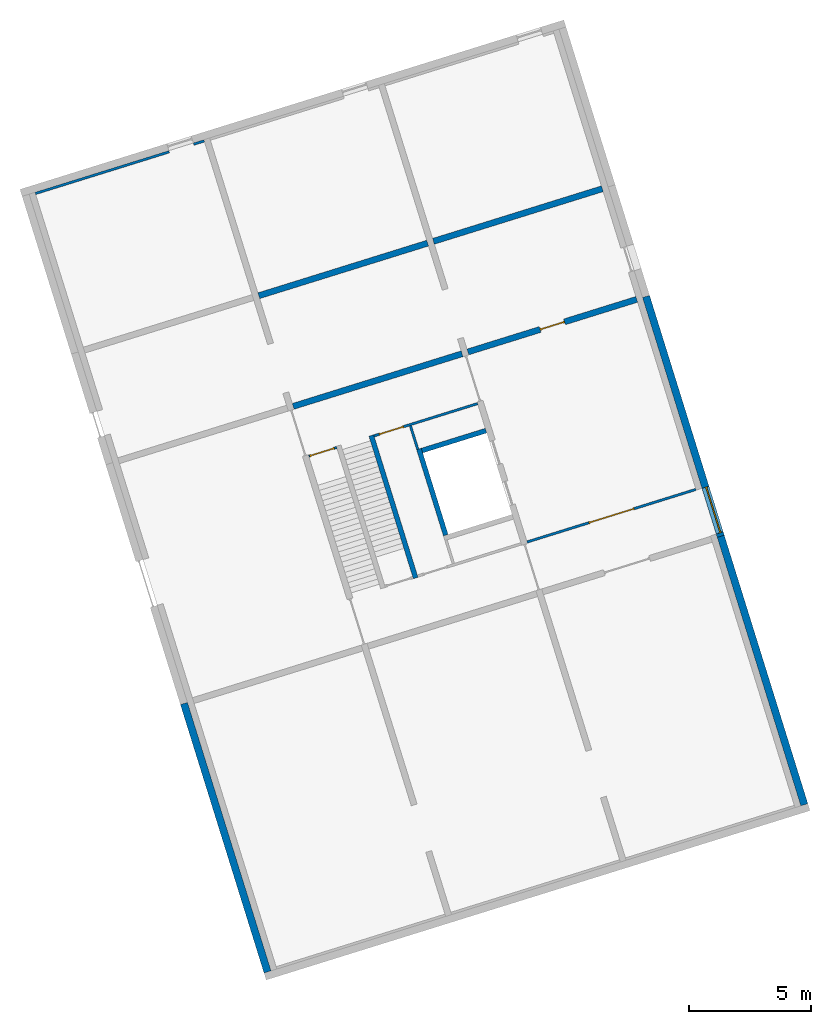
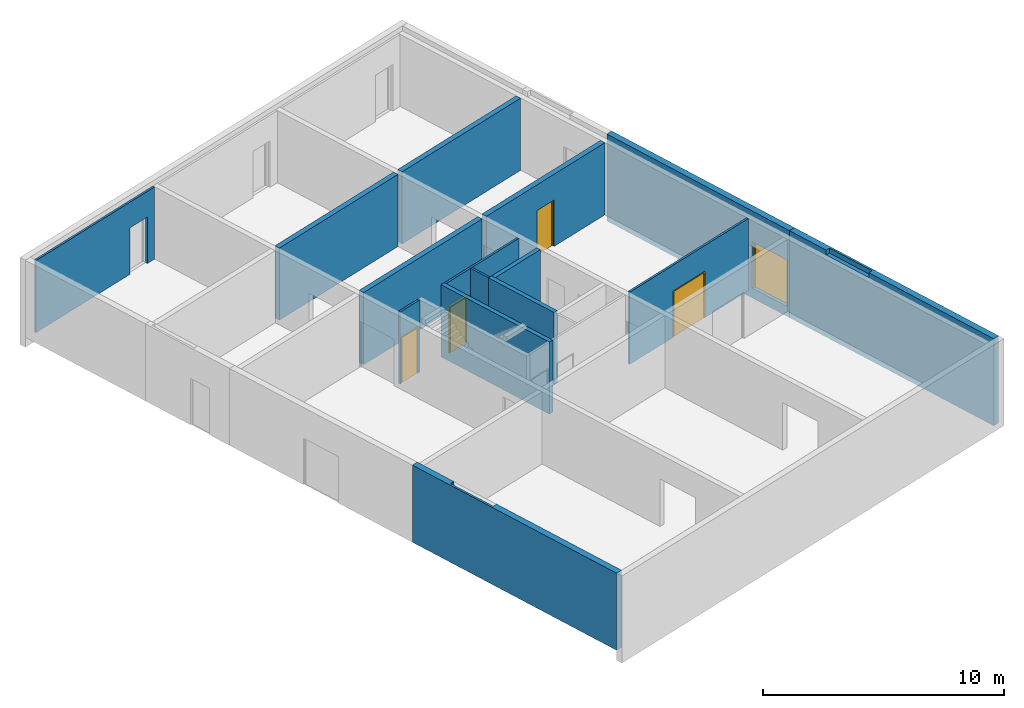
# One storey, part 2 of 5: 15 walls, 5 doors, 10 openings.
"""IFC4 building model written with IfcOpenShell, lengths in metres."""

from ifc_helpers import new_model, entity, si_unit, converted_unit, direction, frame, origin, place, context, subcontext, project, spatial, indexed_curve, outline, extrude, polygons, source, transform, mapped, material, constituent, constituent_set, type_object, type_shapes, element, fill, save


model = new_model("IFC4")

# Units and contexts
model_context = context("Model", 3, precision=1e-05, world=origin(), true_north=direction((6.12323399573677e-17, 1.0)))
body_context = subcontext(model_context, "Body", "Model", "MODEL_VIEW")
ifc_project = project(units=[si_unit("LENGTHUNIT", "METRE"), si_unit("AREAUNIT", "SQUARE_METRE"), si_unit("VOLUMEUNIT", "CUBIC_METRE"), converted_unit("PLANEANGLEUNIT", "DEGREE", entity("IfcPlaneAngleMeasure", 0.0174532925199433), si_unit("PLANEANGLEUNIT", "RADIAN"), dimensions=[0, 0, 0, 0, 0, 0, 0])], contexts=[model_context])

# Site, building, storey
site_placement = place(None, frame((13.1347999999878, 11.9886000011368, 0.0), z_axis=(0.0, 0.0, 1.0), x_axis=(0.954770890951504, 0.297342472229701, 0.0)))
site = spatial("IfcSite", under=ifc_project, at=site_placement, Name="Schiehaven", CompositionType="ELEMENT")
building_placement = place(site_placement, origin())
building = spatial("IfcBuilding", under=site, at=building_placement, Name="VORM huis", CompositionType="ELEMENT")
storey_placement = place(building_placement, origin())
storey = spatial("IfcBuildingStorey", under=building, at=storey_placement, Name="00 begane grond", CompositionType="ELEMENT", Elevation=0.0)

# Wall
ifc_material_1 = material(Name="beton_gewapend_ihw", Category="Miscellaneous")
wall_type_1 = type_object("IfcWallType", Name="Basic Wall:28_WA_skelet_wand 250mm_gen", PredefinedType="STANDARD")
wall_1_placement = place(storey_placement, frame((72.3750000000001, 22.1999999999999, 0.0), z_axis=(0.0, 0.0, 1.0), x_axis=(-1.0, 0.0, 0.0)))
element("IfcWall", 1, at=wall_1_placement, inside=storey, type_object=wall_type_1, material=ifc_material_1, Name="Constructieve wand", ObjectType="Wand", PredefinedType="NOTDEFINED", context=body_context, shape_type="SweptSolid", body=[
    extrude(outline(indexed_curve([(7.25000000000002, 0.125000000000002), (2.09007477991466e-15, 0.125000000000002), (-2.09007477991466e-15, -0.125000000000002), (7.25000000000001, -0.125000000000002), (7.25000000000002, 0.125000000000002)], self_intersect=False)), origin(), (0.0, 0.0, 1.0), 3.65),
])

# Wall, opening
ifc_material_2 = material(Name="ntb_ntb_ntb", Category="Miscellaneous")
wall_type_2 = type_object("IfcWallType", Name="Basic Wall:21_WA_gevel_binnenspouwwand 100mm_gen", PredefinedType="STANDARD")
wall_2_placement = place(storey_placement, frame((64.8749999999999, 33.6749999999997, 0.0), z_axis=(0.0, 0.0, 1.0), x_axis=(-1.0, 0.0, 0.0)))
wall_2 = element("IfcWall", 2, at=wall_2_placement, inside=storey, type_object=wall_type_2, material=ifc_material_2, Name="Binnenspouwblad", ObjectType="Wand", PredefinedType="NOTDEFINED", context=body_context, shape_type="Tessellation", body=[
    polygons([(1.50000000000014, -0.0499999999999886, 2.34999999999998), (1.50000000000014, -0.0499999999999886, 0.0), (7.24999999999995, -0.0499999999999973, 0.0), (7.24999999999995, -0.0499999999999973, 3.65), (1.14799152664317e-16, -0.0499999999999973, 3.65), (1.14799152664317e-16, -0.0499999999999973, 0.0), (0.45000000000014, -0.0499999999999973, 0.0), (0.45000000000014, -0.0499999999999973, 2.34999999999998), (7.24999999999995, 0.0500000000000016, 0.0), (1.50000000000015, 0.050000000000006, 0.0), (1.50000000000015, 0.050000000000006, 2.34999999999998), (0.450000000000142, 0.050000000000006, 2.34999999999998), (0.450000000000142, 0.050000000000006, 0.0), (1.73273906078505e-15, 0.0500000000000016, 0.0), (1.73273906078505e-15, 0.0500000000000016, 3.65), (7.24999999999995, 0.0500000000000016, 3.65)], [[[1, 2, 3, 4, 5, 6, 7, 8]], [[9, 10, 11, 12, 13, 14, 15, 16]], [[7, 6, 14, 13]], [[4, 3, 9, 16]], [[5, 4, 16, 15]], [[6, 5, 15, 14]], [[13, 12, 8, 7]], [[11, 10, 2, 1]], [[12, 11, 1, 8]], [[3, 2, 10, 9]]], closed=True),
])
opening_1_placement = place(wall_2_placement, origin())
element("IfcOpeningElement", 3, at=opening_1_placement, cuts=wall_2, Name="Woningtoegangsdeur", PredefinedType="OPENING", context=body_context, shape_type="SweptSolid", body=[
    extrude(outline(indexed_curve([(-0.525000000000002, -1.17499999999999), (0.525000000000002, -1.17499999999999), (0.525000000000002, 1.17499999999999), (-0.525000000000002, 1.17499999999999), (-0.525000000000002, -1.17499999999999)], self_intersect=False)), frame((0.975000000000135, -1.57399999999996, 1.17499999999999), z_axis=(0.0, 1.0, 0.0), x_axis=(1.0, 0.0, 0.0)), (0.0, 0.0, 1.0), 3.048),
])

# Walls
wall_type_3 = type_object("IfcWallType", Name="Basic Wall: 300mm_gen", PredefinedType="STANDARD")
wall_3_placement = place(storey_placement, frame((80.2750000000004, 0.375000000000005, -0.5), z_axis=(0.0, 0.0, 1.0), x_axis=(0.0, 1.0, 0.0)))
element("IfcWall", 4, at=wall_3_placement, inside=storey, type_object=wall_type_3, material=ifc_material_2, Name="Gevelwand", ObjectType="Wand", PredefinedType="NOTDEFINED", context=body_context, shape_type="Tessellation", body=[
    polygons([(3.88578058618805e-16, -0.149999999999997, 0.0), (11.525, -0.149999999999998, 0.0), (11.525, -0.149999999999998, 4.4), (4.44089209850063e-16, -0.149999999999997, 4.4), (11.525, 0.15, 0.0), (6.10622663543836e-16, 0.15, 0.0), (6.10622663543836e-16, 0.15, 0.5), (6.10622663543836e-16, 0.15, 4.15), (2.77555756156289e-16, 0.15, 4.4), (7.05000000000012, 0.149999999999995, 4.4), (7.05000000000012, 0.149999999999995, 4.15), (9.45000000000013, 0.150000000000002, 4.15), (9.45000000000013, 0.150000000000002, 4.4), (11.525, 0.15, 4.4), (9.45000000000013, -0.0500000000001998, 4.4), (7.05000000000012, -0.05000000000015, 4.4), (7.05000000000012, -0.05000000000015, 4.15), (9.45000000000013, -0.0500000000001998, 4.15)], [[[1, 2, 3, 4]], [[5, 6, 7, 8, 9, 10, 11, 12, 13, 14]], [[2, 1, 6, 5]], [[3, 2, 5, 14]], [[4, 3, 14, 13, 15, 16, 10, 9]], [[17, 18, 12, 11]], [[16, 17, 11, 10]], [[18, 17, 16, 15]], [[18, 15, 13, 12]], [[1, 4, 9, 8, 7, 6]]], closed=True),
])
wall_4_placement = place(storey_placement, frame((57.2250000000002, 11.8999999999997, 0.0), z_axis=(0.0, 0.0, 1.0), x_axis=(0.0, -1.0, 0.0)))
element("IfcWall", 5, at=wall_4_placement, inside=storey, type_object=wall_type_3, material=ifc_material_2, Name="Gevelwand", ObjectType="Wand", PredefinedType="NOTDEFINED", context=body_context, shape_type="Tessellation", body=[
    polygons([(0.0, -0.15, 0.0), (11.525, -0.149999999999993, 0.0), (11.525, -0.149999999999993, 3.9), (0.0, -0.15, 3.9), (11.525, 0.150000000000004, 0.0), (1.77635683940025e-15, 0.150000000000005, 0.0), (1.77635683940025e-15, 0.150000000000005, 3.9), (2.07499999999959, 0.150000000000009, 3.9), (2.07499999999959, 0.149999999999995, 3.65), (4.47499999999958, 0.149999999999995, 3.65), (4.47499999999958, 0.149999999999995, 3.9), (11.525, 0.150000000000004, 3.9), (11.525, 0.149999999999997, 3.65), (4.47499999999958, -0.0499999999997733, 3.9), (2.07499999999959, -0.0499999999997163, 3.9), (2.07499999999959, -0.0499999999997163, 3.65), (4.47499999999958, -0.0499999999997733, 3.65)], [[[1, 2, 3, 4]], [[5, 6, 7, 8, 9, 10, 11, 12, 13]], [[2, 1, 6, 5]], [[4, 3, 12, 11, 14, 15, 8, 7]], [[1, 4, 7, 6]], [[3, 2, 5, 13, 12]], [[16, 17, 10, 9]], [[17, 14, 11, 10]], [[17, 16, 15, 14]], [[15, 16, 9, 8]]], closed=True),
])

# Wall, openings, door
wall_5_placement = place(storey_placement, frame((80.2750000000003, 11.9, -0.5), z_axis=(0.0, 0.0, 1.0), x_axis=(0.0, 1.0, 0.0)))
wall_5 = element("IfcWall", 6, at=wall_5_placement, inside=storey, type_object=wall_type_3, material=ifc_material_2, Name="Gevelwand", ObjectType="Wand", PredefinedType="NOTDEFINED", context=body_context, shape_type="Tessellation", body=[
    polygons([(0.0, -0.150000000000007, 0.0), (10.3, -0.150000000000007, 0.0), (10.3, -0.150000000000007, 4.4), (0.0, -0.150000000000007, 4.4), (2.1075, -0.150000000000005, 2.84999999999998), (2.1075, -0.150000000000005, 0.5), (0.142499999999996, -0.15000000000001, 0.5), (0.142499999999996, -0.15000000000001, 2.84999999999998), (0.0, 0.149999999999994, 0.0), (0.0, 0.149999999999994, 4.4), (10.3, 0.149999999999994, 4.4), (10.3, 0.149999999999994, 0.0), (2.1075, 0.149999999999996, 2.84999999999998), (0.142499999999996, 0.149999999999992, 2.84999999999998), (0.142499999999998, 0.149999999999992, 0.5), (2.1075, 0.149999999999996, 0.5)], [[[1, 2, 3, 4], [5, 6, 7, 8]], [[9, 10, 11, 12], [13, 14, 15, 16]], [[2, 1, 9, 12]], [[3, 2, 12, 11]], [[4, 3, 11, 10]], [[1, 4, 10, 9]], [[5, 8, 14, 13]], [[8, 7, 15, 14]], [[7, 6, 16, 15]], [[6, 5, 13, 16]]], closed=True),
])
opening_2_placement = place(wall_5_placement, origin())
element("IfcOpeningElement", 7, at=opening_2_placement, cuts=wall_5, Name="Vluchtdeur", PredefinedType="OPENING", context=body_context, shape_type="SweptSolid", body=[
    extrude(outline(indexed_curve([(-0.525000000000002, -1.17499999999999), (0.525000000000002, -1.17499999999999), (0.524999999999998, 1.17499999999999), (-0.525000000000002, 1.17499999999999), (-0.525000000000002, -1.17499999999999)], self_intersect=False)), frame((11.9749999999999, -1.12399999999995, 1.67499999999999), z_axis=(0.0, 1.0, 0.0), x_axis=(1.0, 0.0, 0.0)), (0.0, 0.0, 1.0), 3.048),
])
opening_3_placement = place(wall_5_placement, frame((2.1075, 0.150000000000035, 0.5)))
opening_3 = element("IfcOpeningElement", 8, at=opening_3_placement, cuts=wall_5, Name="Vluchtdeur", PredefinedType="OPENING", context=body_context, shape_type="SweptSolid", body=[
    extrude(outline(indexed_curve([(2.34999999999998, 0.0), (2.34999999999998, 1.965), (0.0, 1.965), (0.0, 0.0), (2.34999999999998, 0.0)], self_intersect=False)), frame((0.0, 0.0, 0.0), z_axis=(0.0, -1.0, 0.0), x_axis=(0.0, 0.0, 1.0)), (0.0, 0.0, 1.0), 0.3),
])
opening_4_placement = place(wall_5_placement, frame((-11.9, 80.2750000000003, 0.5), z_axis=(0.0, 0.0, 1.0), x_axis=(0.0, -1.0, 0.0)))
element("IfcOpeningElement", 9, at=opening_4_placement, cuts=wall_5, Name="Vluchtdeur", PredefinedType="OPENING", context=body_context, shape_type="SweptSolid", body=[
    extrude(outline(indexed_curve([(-1.17499999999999, -0.9825), (1.17499999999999, -0.982500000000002), (1.17499999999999, 0.982500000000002), (-1.17499999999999, 0.982500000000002), (-1.17499999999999, -0.9825)], self_intersect=False)), frame((81.6490000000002, 13.025, 1.17499999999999), z_axis=(-1.0, 0.0, 0.0), x_axis=(0.0, 0.0, -1.0)), (0.0, 0.0, 1.0), 3.048),
])
ifc_material_3 = material(Name="PD_a_buitenwandopeningen", Category="Miscellaneous")
ifc_constituent_1 = constituent(ifc_material_3, Name="PD_a_buitenwandopeningen", Category="Miscellaneous")
ifc_material_4 = material(Name="metaal_aluminium_ntb", Category="Miscellaneous")
ifc_constituent_2 = constituent(ifc_material_4, Name="metaal_aluminium_ntb", Category="Miscellaneous")
ifc_constituent_set_1 = constituent_set(constituents=[ifc_constituent_1, ifc_constituent_2])
ifc_constituent_3 = constituent(ifc_material_3, Name="PD_a_buitenwandopeningen", Category="Miscellaneous")
ifc_constituent_4 = constituent(ifc_material_4, Name="Panel", Category="Miscellaneous")
ifc_constituent_set_2 = constituent_set(constituents=[ifc_constituent_3, ifc_constituent_4])
door_type_1 = type_object("IfcDoorType", Name="31_DO_buitendeur dubbel:buitendeur zelfsluitend 30min", OperationType="NOTDEFINED", PredefinedType="DOOR", material=ifc_constituent_set_2)
shared_shape_1 = source(origin(), body_context, "Body", "SweptSolid", [
    extrude(outline(indexed_curve([(0.932499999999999, -1.16249999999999), (0.982500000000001, -1.16249999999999), (0.982500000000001, 1.18749999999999), (-0.982500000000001, 1.18749999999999), (-0.982500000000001, -1.16249999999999), (-0.932499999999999, -1.16249999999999), (-0.9325, 1.13749999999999), (0.932499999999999, 1.13749999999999), (0.932499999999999, -1.16249999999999)], self_intersect=False)), frame((0.982500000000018, 0.230000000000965, 1.16249999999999), z_axis=(0.0, -1.0, 0.0), x_axis=(1.0, 0.0, 0.0)), (0.0, 0.0, 1.0), 0.1),
    extrude(outline(indexed_curve([(-0.466249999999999, -0.025), (0.466249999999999, -0.025), (0.466249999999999, 0.025), (-0.466249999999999, 0.025), (-0.466249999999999, -0.025)], self_intersect=False)), frame((0.516250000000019, 0.180000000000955, 0.0)), (0.0, 0.0, 1.0), 2.29999999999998),
    extrude(outline(indexed_curve([(-0.46625, -0.025), (0.46625, -0.025), (0.46625, 0.025), (-0.46625, 0.025), (-0.46625, -0.025)], self_intersect=False)), frame((1.44875000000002, 0.180000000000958, 0.0)), (0.0, 0.0, 1.0), 2.29999999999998),
])
type_shapes(door_type_1, [shared_shape_1])
door_1_placement = place(opening_3_placement, frame((0.0, 0.0, 0.0), z_axis=(0.0, 0.0, 1.0), x_axis=(-1.0, 0.0, 0.0)))
door_1 = element("IfcDoor", 10, at=door_1_placement, inside=storey, type_object=door_type_1, material=ifc_constituent_set_1, Name="Vluchtdeur", ObjectType="Deur", OperationType="NOTDEFINED", OverallHeight=2.34999999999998, OverallWidth=1.965, PredefinedType="DOOR", context=body_context, shape_type="MappedRepresentation", body=[
    mapped(shared_shape_1, transform((0.0, 0.0, 0.0), scale=1.0)),
])
fill(opening_3, door_1)

# Walls
ifc_material_5 = material(Name="beton_gewapend_prefab-element", Category="Miscellaneous")
wall_type_4 = type_object("IfcWallType", Name="Basic Wall:28_WA_skelet_wand 200mm_gen", PredefinedType="STANDARD")
wall_6_placement = place(storey_placement, frame((69.5250000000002, 15.3, 0.0), z_axis=(0.0, 0.0, 1.0), x_axis=(0.0, 1.0, 0.0)))
element("IfcWall", 11, at=wall_6_placement, inside=storey, type_object=wall_type_4, material=ifc_material_5, Name="Constructieve wand", ObjectType="Wand", PredefinedType="NOTDEFINED", context=body_context, shape_type="SweptSolid", body=[
    extrude(outline(indexed_curve([(3.7, 0.100000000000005), (-3.3799899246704e-16, 0.100000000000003), (3.3799899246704e-16, -0.100000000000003), (3.7, -0.100000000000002), (3.7, 0.100000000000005)], self_intersect=False)), origin(), (0.0, 0.0, 1.0), 3.65),
])
wall_7_placement = place(storey_placement, frame((69.6250000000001, 18.9, 0.0)))
element("IfcWall", 12, at=wall_7_placement, inside=storey, type_object=wall_type_4, material=ifc_material_5, Name="Constructieve wand", ObjectType="Wand", PredefinedType="NOTDEFINED", context=body_context, shape_type="SweptSolid", body=[
    extrude(outline(indexed_curve([(2.75000000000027, 0.0999999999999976), (2.05391259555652e-16, 0.0999999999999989), (-2.05391259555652e-16, -0.0999999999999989), (2.75000000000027, -0.1), (2.75000000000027, 0.0999999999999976)], self_intersect=False)), origin(), (0.0, 0.0, 1.0), 3.65),
])
wall_8_placement = place(storey_placement, frame((67.8250000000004, 13.9899999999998, 0.0), z_axis=(0.0, 0.0, 1.0), x_axis=(0.0, 1.0, 0.0)))
element("IfcWall", 13, at=wall_8_placement, inside=storey, type_object=wall_type_4, material=ifc_material_5, Name="Constructieve wand", ObjectType="Wand", PredefinedType="NOTDEFINED", context=body_context, shape_type="SweptSolid", body=[
    extrude(outline(indexed_curve([(6.12000000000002, 0.100000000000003), (5.66205034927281e-16, 0.100000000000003), (-5.66205034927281e-16, -0.100000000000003), (6.12000000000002, -0.100000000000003), (6.12000000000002, 0.100000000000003)], self_intersect=False)), origin(), (0.0, 0.0, 1.0), 3.65),
])

# Wall, opening, door
wall_type_5 = type_object("IfcWallType", Name="Basic Wall:22_WA_afbouw_binnenwand 250mm_gen", PredefinedType="STANDARD")
wall_9_placement = place(storey_placement, frame((72.6250000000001, 22.1999999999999, 0.0)))
wall_9 = element("IfcWall", 14, at=wall_9_placement, inside=storey, type_object=wall_type_5, material=ifc_material_2, Name="Binnenwand", ObjectType="Wand", PredefinedType="NOTDEFINED", context=body_context, shape_type="Tessellation", body=[
    polygons([(-3.32898712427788e-15, -0.124999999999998, 0.0), (3.09999999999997, -0.124999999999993, 0.0), (3.09999999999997, -0.124999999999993, 2.34999999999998), (4.14999999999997, -0.124999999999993, 2.34999999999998), (4.14999999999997, -0.124999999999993, 0.0), (7.24999999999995, -0.124999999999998, 0.0), (7.24999999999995, -0.124999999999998, 3.65), (-3.32898712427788e-15, -0.124999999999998, 3.65), (3.09999999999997, 0.125000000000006, 2.34999999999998), (3.09999999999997, 0.125000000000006, 0.0), (9.50064318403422e-16, 0.125000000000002, 0.0), (9.50064318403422e-16, 0.125000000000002, 3.65), (7.24999999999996, 0.125000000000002, 3.65), (7.24999999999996, 0.125000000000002, 0.0), (4.14999999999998, 0.125000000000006, 0.0), (4.14999999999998, 0.125000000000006, 2.34999999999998)], [[[1, 2, 3, 4, 5, 6, 7, 8]], [[9, 10, 11, 12, 13, 14, 15, 16]], [[11, 10, 2, 1]], [[7, 6, 14, 13]], [[8, 7, 13, 12]], [[1, 8, 12, 11]], [[5, 4, 16, 15]], [[3, 2, 10, 9]], [[4, 3, 9, 16]], [[15, 14, 6, 5]]], closed=True),
])
opening_5_placement = place(wall_9_placement, frame((4.14999999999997, 0.125000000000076, 0.0)))
opening_5 = element("IfcOpeningElement", 15, at=opening_5_placement, cuts=wall_9, Name="Vluchtdeur", PredefinedType="OPENING", context=body_context, shape_type="SweptSolid", body=[
    extrude(outline(indexed_curve([(2.34999999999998, 1.1004904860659e-29), (2.34999999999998, 1.05), (0.0, 1.05), (0.0, 1.1004904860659e-29), (2.34999999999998, 1.1004904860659e-29)], self_intersect=False)), frame((0.0, 0.0, 0.0), z_axis=(0.0, -1.0, 0.0), x_axis=(0.0, 0.0, 1.0)), (0.0, 0.0, 1.0), 0.25),
])
ifc_material_6 = material(Name="PD_a_binnenwandopeningen", Category="Miscellaneous")
ifc_constituent_5 = constituent(ifc_material_6, Name="PD_a_binnenwandopeningen", Category="Miscellaneous")
ifc_constituent_6 = constituent(ifc_material_4, Name="metaal_aluminium_ntb", Category="Miscellaneous")
ifc_constituent_set_3 = constituent_set(constituents=[ifc_constituent_5, ifc_constituent_6])
ifc_constituent_7 = constituent(ifc_material_6, Name="PD_a_binnenwandopeningen", Category="Miscellaneous")
ifc_constituent_8 = constituent(ifc_material_4, Name="Panel", Category="Miscellaneous")
ifc_constituent_set_4 = constituent_set(constituents=[ifc_constituent_7, ifc_constituent_8])
door_type_2 = type_object("IfcDoorType", Name="32_DO_binnendeur enkel:binnendeur zelfsluitend 30min", OperationType="NOTDEFINED", PredefinedType="DOOR", material=ifc_constituent_set_4)
shared_shape_2 = source(origin(), body_context, "Body", "SweptSolid", [
    extrude(outline(indexed_curve([(0.475, -1.16249999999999), (0.525000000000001, -1.16249999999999), (0.525000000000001, 1.18749999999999), (-0.525000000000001, 1.18749999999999), (-0.525000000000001, -1.16249999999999), (-0.475, -1.16249999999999), (-0.475, 1.13749999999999), (0.475, 1.13749999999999), (0.475, -1.16249999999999)], self_intersect=False)), frame((0.525000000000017, 0.174999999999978, 1.16249999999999), z_axis=(0.0, -1.0, 0.0), x_axis=(1.0, 0.0, 0.0)), (0.0, 0.0, 1.0), 0.1),
    extrude(outline(indexed_curve([(-0.475, -0.025), (0.475, -0.025), (0.475, 0.025), (-0.475, 0.025), (-0.475, -0.025)], self_intersect=False)), frame((0.525000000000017, 0.12499999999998, 0.0)), (0.0, 0.0, 1.0), 2.29999999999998),
])
type_shapes(door_type_2, [shared_shape_2])
door_2_placement = place(opening_5_placement, frame((0.0, 0.0, 0.0), z_axis=(0.0, 0.0, 1.0), x_axis=(-1.0, 0.0, 0.0)))
door_2 = element("IfcDoor", 16, at=door_2_placement, inside=storey, type_object=door_type_2, material=ifc_constituent_set_3, Name="Vluchtdeur", ObjectType="Deur", OperationType="NOTDEFINED", OverallHeight=2.34999999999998, OverallWidth=1.05, PredefinedType="DOOR", context=body_context, shape_type="MappedRepresentation", body=[
    mapped(shared_shape_2, transform((0.0, 0.0, 0.0), scale=1.0)),
])
fill(opening_5, door_2)

# Walls
for number, where, z_axis, x_axis in (
    (17, (72.375, 26.9499999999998, 0.0), (0.0, 0.0, 1.0), (-1.0, 0.0, 0.0)),
    (18, (79.875, 26.95, 0.0), (0.0, 0.0, 1.0), (-1.0, 0.0, 0.0)),
):
    element("IfcWall", number, at=place(storey_placement, frame(where, z_axis=z_axis, x_axis=x_axis)), inside=storey, type_object=wall_type_5, material=ifc_material_2, Name="Binnenwand", ObjectType="Wand", PredefinedType="NOTDEFINED", context=body_context, shape_type="SweptSolid", body=[
        extrude(outline(indexed_curve([(7.24999999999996, 0.125000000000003), (2.22995564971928e-15, 0.125000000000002), (-2.22995564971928e-15, -0.125000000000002), (7.24999999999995, -0.125000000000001), (7.24999999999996, 0.125000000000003)], self_intersect=False)), origin(), (0.0, 0.0, 1.0), 3.65),
    ])

# Wall, opening, door
wall_type_6 = type_object("IfcWallType", Name="Basic Wall:22_WA_afbouw_binnenwand 100mm_gen", PredefinedType="STANDARD")
wall_10_placement = place(storey_placement, frame((72.6250000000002, 14.04, 0.0)))
wall_10 = element("IfcWall", 19, at=wall_10_placement, inside=storey, type_object=wall_type_6, material=ifc_material_2, Name="Binnenwand", ObjectType="Wand", PredefinedType="NOTDEFINED", context=body_context, shape_type="Tessellation", body=[
    polygons([(4.59999999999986, -0.0499999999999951, 2.34999999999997), (4.59999999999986, -0.0499999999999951, 0.0), (7.24999999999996, -0.0499999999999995, 0.0), (7.24999999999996, -0.0499999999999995, 3.65), (2.59608411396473e-15, -0.0499999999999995, 3.65), (2.59608411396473e-15, -0.0499999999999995, 0.0), (2.64999999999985, -0.0499999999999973, 0.0), (2.64999999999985, -0.0499999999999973, 2.34999999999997), (7.24999999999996, 0.0499999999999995, 0.0), (4.59999999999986, 0.0500000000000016, 0.0), (4.59999999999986, 0.0500000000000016, 2.34999999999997), (2.64999999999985, 0.0500000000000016, 2.34999999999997), (2.64999999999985, 0.0500000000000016, 0.0), (4.03885492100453e-15, 0.0499999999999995, 0.0), (4.03885492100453e-15, 0.0499999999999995, 3.65), (7.24999999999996, 0.0499999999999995, 3.65)], [[[1, 2, 3, 4, 5, 6, 7, 8]], [[9, 10, 11, 12, 13, 14, 15, 16]], [[7, 6, 14, 13]], [[4, 3, 9, 16]], [[5, 4, 16, 15]], [[6, 5, 15, 14]], [[13, 12, 8, 7]], [[11, 10, 2, 1]], [[12, 11, 1, 8]], [[3, 2, 10, 9]]], closed=True),
])
opening_6_placement = place(wall_10_placement, frame((4.59999999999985, 0.0500000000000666, 0.0)))
opening_6 = element("IfcOpeningElement", 20, at=opening_6_placement, cuts=wall_10, Name="Vluchtdeur", PredefinedType="OPENING", context=body_context, shape_type="SweptSolid", body=[
    extrude(outline(indexed_curve([(2.34999999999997, 1.95), (0.0, 1.95000000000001), (0.0, 3.10024677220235e-29), (2.34999999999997, 3.10024677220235e-29), (2.34999999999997, 1.95)], self_intersect=False)), frame((0.0, 0.0, 0.0), z_axis=(0.0, -1.0, 0.0), x_axis=(0.0, 0.0, 1.0)), (0.0, 0.0, 1.0), 0.1),
])
ifc_constituent_9 = constituent(ifc_material_6, Name="PD_a_binnenwandopeningen", Category="Miscellaneous")
ifc_constituent_10 = constituent(ifc_material_4, Name="metaal_aluminium_ntb", Category="Miscellaneous")
ifc_constituent_set_5 = constituent_set(constituents=[ifc_constituent_9, ifc_constituent_10])
ifc_constituent_11 = constituent(ifc_material_6, Name="PD_a_binnenwandopeningen", Category="Miscellaneous")
ifc_constituent_12 = constituent(ifc_material_4, Name="Panel", Category="Miscellaneous")
ifc_constituent_set_6 = constituent_set(constituents=[ifc_constituent_11, ifc_constituent_12])
door_type_3 = type_object("IfcDoorType", Name="32_DO_binnendeur dubbel:binnendeur zelfsluitend 30min", OperationType="NOTDEFINED", PredefinedType="DOOR", material=ifc_constituent_set_6)
shared_shape_3 = source(origin(), body_context, "Body", "SweptSolid", [
    extrude(outline(indexed_curve([(-1.16249999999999, -0.975), (1.18749999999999, -0.975), (1.18749999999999, 0.975), (-1.16249999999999, 0.975), (-1.16249999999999, 0.925), (1.13749999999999, 0.925), (1.13749999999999, -0.925), (-1.16249999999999, -0.925), (-1.16249999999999, -0.975)], self_intersect=False)), frame((0.975, 0.0, 1.16249999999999), z_axis=(0.0, 1.0, 0.0), x_axis=(0.0, 0.0, 1.0)), (0.0, 0.0, 1.0), 0.1),
    extrude(outline(indexed_curve([(-0.025, -0.462499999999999), (0.025, -0.462499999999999), (0.025, 0.462499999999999), (-0.025, 0.462499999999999), (-0.025, -0.462499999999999)], self_intersect=False)), frame((1.4375, 0.0499999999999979, 0.0), z_axis=(0.0, 0.0, 1.0), x_axis=(0.0, 1.0, 0.0)), (0.0, 0.0, 1.0), 2.29999999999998),
    extrude(outline(indexed_curve([(-0.0249999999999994, -0.4625), (0.0250000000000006, -0.4625), (0.0249999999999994, 0.4625), (-0.0250000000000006, 0.4625), (-0.0249999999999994, -0.4625)], self_intersect=False)), frame((0.5125, 0.050000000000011, 0.0), z_axis=(0.0, 0.0, 1.0), x_axis=(0.0, 1.0, 0.0)), (0.0, 0.0, 1.0), 2.29999999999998),
])
type_shapes(door_type_3, [shared_shape_3])
door_3_placement = place(opening_6_placement, frame((0.0, 0.0, 0.0), z_axis=(0.0, 0.0, 1.0), x_axis=(-1.0, 0.0, 0.0)))
door_3 = element("IfcDoor", 21, at=door_3_placement, inside=storey, type_object=door_type_3, material=ifc_constituent_set_5, Name="Vluchtdeur", ObjectType="Deur", OperationType="NOTDEFINED", OverallHeight=2.34999999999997, OverallWidth=1.95000000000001, PredefinedType="DOOR", context=body_context, shape_type="MappedRepresentation", body=[
    mapped(shared_shape_3, transform((0.0, 0.0, 0.0), scale=1.0)),
])
fill(opening_6, door_3)

# Wall, openings, door
wall_11_placement = place(storey_placement, frame((65.1250000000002, 20.0599999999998, 0.0)))
wall_11 = element("IfcWall", 22, at=wall_11_placement, inside=storey, type_object=wall_type_6, material=ifc_material_2, Name="Binnenwand", ObjectType="Wand", PredefinedType="NOTDEFINED", context=body_context, shape_type="Tessellation", body=[
    polygons([(-8.55465032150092e-15, -0.0499999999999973, 0.0), (0.0499999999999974, -0.0499999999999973, 0.0), (0.0499999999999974, -0.0499999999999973, 2.34999999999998), (1.1, -0.0499999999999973, 2.34999999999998), (1.1, -0.0499999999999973, 0.0), (1.20000000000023, -0.0499999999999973, 0.0), (1.20000000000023, -0.0499999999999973, 3.65), (-8.55465032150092e-15, -0.0499999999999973, 3.65), (0.0499999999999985, 0.0500000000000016, 2.34999999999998), (0.0499999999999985, 0.0500000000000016, 0.0), (-7.47178319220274e-15, 0.0500000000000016, 0.0), (-7.47178319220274e-15, 0.0500000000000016, 3.65), (1.20000000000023, 0.0500000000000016, 3.65), (1.20000000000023, 0.0500000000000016, 0.0), (1.1, 0.0500000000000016, 0.0), (1.1, 0.0500000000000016, 2.34999999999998)], [[[1, 2, 3, 4, 5, 6, 7, 8]], [[9, 10, 11, 12, 13, 14, 15, 16]], [[11, 10, 2, 1]], [[7, 6, 14, 13]], [[8, 7, 13, 12]], [[1, 8, 12, 11]], [[5, 4, 16, 15]], [[3, 2, 10, 9]], [[4, 3, 9, 16]], [[15, 14, 6, 5]]], closed=True),
])
opening_7_placement = place(wall_11_placement, frame((0.0499999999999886, -0.0499999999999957, 0.0)))
opening_7 = element("IfcOpeningElement", 23, at=opening_7_placement, cuts=wall_11, Name="Vluchtdeur", PredefinedType="OPENING", context=body_context, shape_type="SweptSolid", body=[
    extrude(outline(indexed_curve([(2.34999999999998, 1.05), (0.0, 1.05), (0.0, 2.93150304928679e-29), (2.34999999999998, 2.93150304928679e-29), (2.34999999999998, 1.05)], self_intersect=False)), frame((0.0, 0.0, 0.0), z_axis=(0.0, 1.0, 0.0), x_axis=(0.0, 0.0, 1.0)), (0.0, 0.0, 1.0), 0.1),
])
opening_8_placement = place(wall_11_placement, frame((-65.1250000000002, -20.0599999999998, 0.0)))
element("IfcOpeningElement", 24, at=opening_8_placement, cuts=wall_11, Name="Vluchtdeur", PredefinedType="OPENING", context=body_context, shape_type="SweptSolid", body=[
    extrude(outline(indexed_curve([(-1.17499999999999, -0.525000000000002), (1.17499999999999, -0.525000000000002), (1.17499999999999, 0.525000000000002), (-1.17499999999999, 0.525000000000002), (-1.17499999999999, -0.525000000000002)], self_intersect=False)), frame((65.7000000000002, 18.4859999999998, 1.17499999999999), z_axis=(0.0, 1.0, 0.0), x_axis=(0.0, 0.0, -1.0)), (0.0, 0.0, 1.0), 3.048),
])
ifc_constituent_13 = constituent(ifc_material_6, Name="PD_a_binnenwandopeningen", Category="Miscellaneous")
ifc_constituent_14 = constituent(ifc_material_4, Name="metaal_aluminium_ntb", Category="Miscellaneous")
ifc_constituent_set_7 = constituent_set(constituents=[ifc_constituent_13, ifc_constituent_14])
ifc_constituent_15 = constituent(ifc_material_6, Name="PD_a_binnenwandopeningen", Category="Miscellaneous")
ifc_constituent_16 = constituent(ifc_material_4, Name="Panel", Category="Miscellaneous")
ifc_constituent_set_8 = constituent_set(constituents=[ifc_constituent_15, ifc_constituent_16])
door_type_4 = type_object("IfcDoorType", Name="32_DO_binnendeur enkel:binnendeur zelfsluitend 30min", OperationType="NOTDEFINED", PredefinedType="DOOR", material=ifc_constituent_set_8)
shared_shape_4 = source(origin(), body_context, "Body", "SweptSolid", [
    extrude(outline(indexed_curve([(-1.16249999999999, -0.525000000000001), (1.18749999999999, -0.525), (1.18749999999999, 0.525), (-1.16249999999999, 0.525), (-1.16249999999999, 0.475), (1.13749999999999, 0.475), (1.13749999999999, -0.475), (-1.16249999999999, -0.475), (-1.16249999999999, -0.525000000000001)], self_intersect=False)), frame((0.525000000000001, 0.0, 1.16249999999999), z_axis=(0.0, 1.0, 0.0), x_axis=(0.0, 0.0, 1.0)), (0.0, 0.0, 1.0), 0.1),
    extrude(outline(indexed_curve([(-0.025, -0.475), (0.025, -0.475), (0.025, 0.475), (-0.025, 0.475), (-0.025, -0.475)], self_intersect=False)), frame((0.525000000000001, 0.0499999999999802, 0.0), z_axis=(0.0, 0.0, 1.0), x_axis=(0.0, 1.0, 0.0)), (0.0, 0.0, 1.0), 2.29999999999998),
])
type_shapes(door_type_4, [shared_shape_4])
door_4_placement = place(opening_7_placement, origin())
door_4 = element("IfcDoor", 25, at=door_4_placement, inside=storey, type_object=door_type_4, material=ifc_constituent_set_7, Name="Vluchtdeur", ObjectType="Deur", OperationType="NOTDEFINED", OverallHeight=2.34999999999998, OverallWidth=1.05, PredefinedType="DOOR", context=body_context, shape_type="MappedRepresentation", body=[
    mapped(shared_shape_4, transform((0.0, 0.0, 0.0), scale=1.0)),
])
fill(opening_7, door_4)

# Wall
wall_12_placement = place(storey_placement, frame((69.4750000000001, 20.0099999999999, 0.0), z_axis=(0.0, 0.0, 1.0), x_axis=(0.0, -1.0, 0.0)))
element("IfcWall", 26, at=wall_12_placement, inside=storey, type_object=wall_type_6, material=ifc_material_2, Name="Binnenwand", ObjectType="Wand", PredefinedType="NOTDEFINED", context=body_context, shape_type="SweptSolid", body=[
    extrude(outline(indexed_curve([(1.01, 0.0500000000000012), (6.62332516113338e-16, 0.0499999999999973), (-6.62332516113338e-16, -0.0499999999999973), (1.01, -0.0499999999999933), (1.01, 0.0500000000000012)], self_intersect=False)), origin(), (0.0, 0.0, 1.0), 3.65),
])

# Wall, openings, door
wall_13_placement = place(storey_placement, frame((67.9250000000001, 20.0599999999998, 0.0)))
wall_13 = element("IfcWall", 27, at=wall_13_placement, inside=storey, type_object=wall_type_6, material=ifc_material_2, Name="Binnenwand", ObjectType="Wand", PredefinedType="NOTDEFINED", context=body_context, shape_type="Tessellation", body=[
    polygons([(-1.75205468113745e-16, -0.0499999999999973, 0.0), (0.224999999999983, -0.0499999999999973, 0.0), (0.224999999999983, -0.0499999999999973, 2.34999999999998), (1.27499999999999, -0.0499999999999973, 2.34999999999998), (1.27499999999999, -0.0499999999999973, 0.0), (1.50000000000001, -0.0499999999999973, 0.0), (1.60000000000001, -0.049999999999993, 0.0), (4.45000000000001, -0.0499999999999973, 0.0), (4.45000000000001, -0.0499999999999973, 3.65), (1.60000000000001, -0.049999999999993, 3.65), (1.50000000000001, -0.0499999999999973, 3.65), (-1.75205468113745e-16, -0.0499999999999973, 3.65), (0.224999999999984, 0.0500000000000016, 2.34999999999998), (0.224999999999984, 0.0500000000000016, 0.0), (9.92830985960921e-16, 0.0500000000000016, 0.0), (9.92830985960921e-16, 0.0500000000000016, 3.65), (4.45000000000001, 0.0500000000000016, 3.65), (4.45000000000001, 0.0500000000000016, 0.0), (1.27499999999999, 0.0500000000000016, 0.0), (1.27499999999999, 0.0500000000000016, 2.34999999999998)], [[[1, 2, 3, 4, 5, 6, 7, 8, 9, 10, 11, 12]], [[13, 14, 15, 16, 17, 18, 19, 20]], [[15, 14, 2, 1]], [[9, 8, 18, 17]], [[12, 11, 10, 9, 17, 16]], [[1, 12, 16, 15]], [[4, 3, 13, 20]], [[3, 2, 14, 13]], [[5, 4, 20, 19]], [[19, 18, 8, 7, 6, 5]]], closed=True),
])
opening_9_placement = place(wall_13_placement, frame((0.225000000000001, -0.0500000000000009, 0.0)))
opening_9 = element("IfcOpeningElement", 28, at=opening_9_placement, cuts=wall_13, Name="Vluchtdeur", PredefinedType="OPENING", context=body_context, shape_type="SweptSolid", body=[
    extrude(outline(indexed_curve([(2.34999999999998, 1.05), (0.0, 1.05), (0.0, 4.2095066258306e-29), (2.34999999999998, 4.2095066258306e-29), (2.34999999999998, 1.05)], self_intersect=False)), frame((0.0, 0.0, 0.0), z_axis=(0.0, 1.0, 0.0), x_axis=(0.0, 0.0, 1.0)), (0.0, 0.0, 1.0), 0.1),
])
opening_10_placement = place(wall_13_placement, frame((-67.9250000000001, -20.0599999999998, 0.0)))
element("IfcOpeningElement", 29, at=opening_10_placement, cuts=wall_13, Name="Vluchtdeur", PredefinedType="OPENING", context=body_context, shape_type="SweptSolid", body=[
    extrude(outline(indexed_curve([(-1.17499999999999, -0.525000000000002), (1.17499999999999, -0.525000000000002), (1.17499999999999, 0.525000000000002), (-1.17499999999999, 0.525000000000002), (-1.17499999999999, -0.525000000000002)], self_intersect=False)), frame((68.6750000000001, 18.4859999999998, 1.17499999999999), z_axis=(0.0, 1.0, 0.0), x_axis=(0.0, 0.0, -1.0)), (0.0, 0.0, 1.0), 3.048),
])
ifc_constituent_17 = constituent(ifc_material_6, Name="PD_a_binnenwandopeningen", Category="Miscellaneous")
ifc_constituent_18 = constituent(ifc_material_4, Name="metaal_aluminium_ntb", Category="Miscellaneous")
ifc_constituent_set_9 = constituent_set(constituents=[ifc_constituent_17, ifc_constituent_18])
door_5_placement = place(opening_9_placement, origin())
door_5 = element("IfcDoor", 30, at=door_5_placement, inside=storey, type_object=door_type_4, material=ifc_constituent_set_9, Name="Vluchtdeur", ObjectType="Deur", OperationType="NOTDEFINED", OverallHeight=2.34999999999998, OverallWidth=1.05, PredefinedType="DOOR", context=body_context, shape_type="MappedRepresentation", body=[
    mapped(shared_shape_4, transform((0.0, 0.0, 0.0), scale=1.0)),
])
fill(opening_9, door_5)

save(model, "model.ifc")
